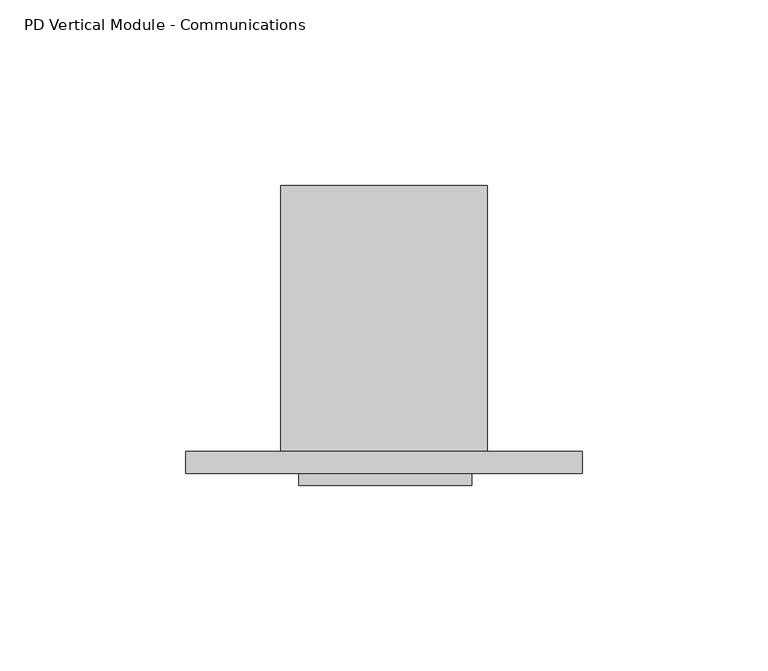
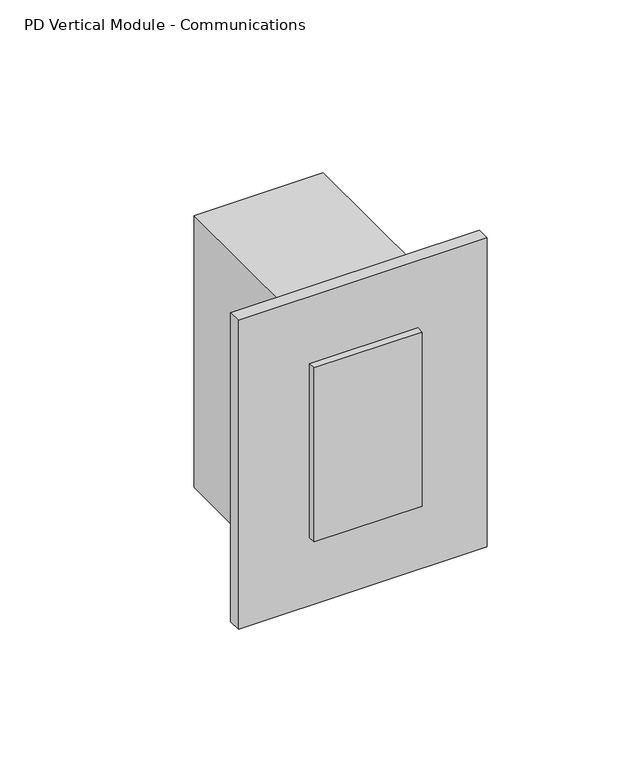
"""IFC4 building model written with IfcOpenShell, lengths in millimetres: proxy geometry, Electrical-Teknion-EPDMC_Vertical_Power_Data_Module_Communication-R2019 : PD Vertical Module - Communications."""

from ifc_helpers import new_model, si_unit, frame, origin, place, context, project, spatial, polyline, outline, extrude, source, transform, mapped, element, save


def pd_vertical_module_communications_bda5cb75(model_context):
    return source(origin(), model_context, "Body", "SweptSolid", [
        extrude(outline(polyline([(4.8514, -5.8928), (51.3842, -5.8928), (51.3842, -9.0678), (4.8514, -9.0678), (4.8514, -5.8928)])), frame((0.0, 0.0, 417.9922742), z_axis=(0.0, 0.0, 1.0), x_axis=(1.0, 0.0, 0.0)), (0.0, 0.0, 1.0), 79.0448),
        extrude(outline(polyline([(-25.6794, 0.0), (81.2292, 0.0), (81.2292, -5.8928), (-25.6794, -5.8928), (-25.6794, 0.0)])), frame((0.0, 0.0, 387.0198), z_axis=(0.0, 0.0, 1.0), x_axis=(1.0, 0.0, 0.0)), (0.0, 0.0, 1.0), 140.3604),
        extrude(outline(polyline([(55.5498, 0.0), (0.0, 0.0), (0.0, 71.7296), (55.5498, 71.7296), (55.5498, 0.0)])), frame((0.0, 0.0, 395.4526), z_axis=(0.0, 0.0, 1.0), x_axis=(1.0, 0.0, 0.0)), (0.0, 0.0, 1.0), 123.4948),
    ])


if __name__ == "__main__":
    model = new_model("IFC4")
    model_context = context("Model", 3, world=origin())
    ifc_project = project(units=[si_unit("LENGTHUNIT", "METRE", prefix="MILLI")], contexts=[model_context])
    site = spatial("IfcSite", under=ifc_project)
    building = spatial("IfcBuilding", under=site)
    placement = place(None, origin())
    pd_vertical_module_communications_shape = pd_vertical_module_communications_bda5cb75(model_context)
    element("IfcBuildingElementProxy", 1, Name="Electrical-Teknion-EPDMC_Vertical_Power_Data_Module_Communication-R2019 : PD Vertical Module - Communications", ObjectType="Electrical-Teknion-EPDMC_Vertical_Power_Data_Module_Communication-R2019 : PD Vertical Module - Communications", at=placement, inside=building, context=model_context, shape_type="MappedRepresentation", body=[
        mapped(pd_vertical_module_communications_shape, transform((0.0, 0.0, 0.0), x_axis=(1.0, 0.0, 0.0), y_axis=(0.0, 1.0, 0.0), z_axis=(0.0, 0.0, 1.0))),
    ])
    save(model, "model.ifc")
